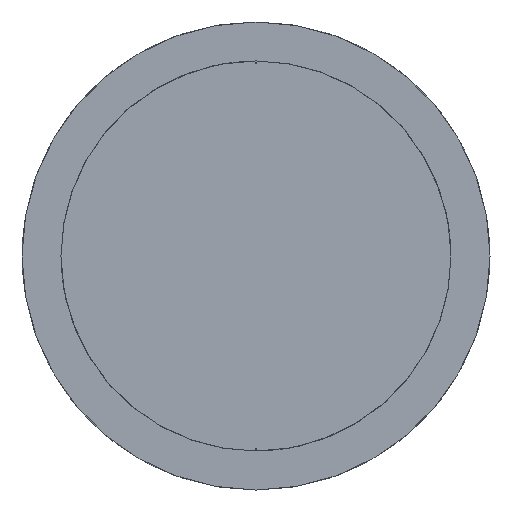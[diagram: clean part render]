
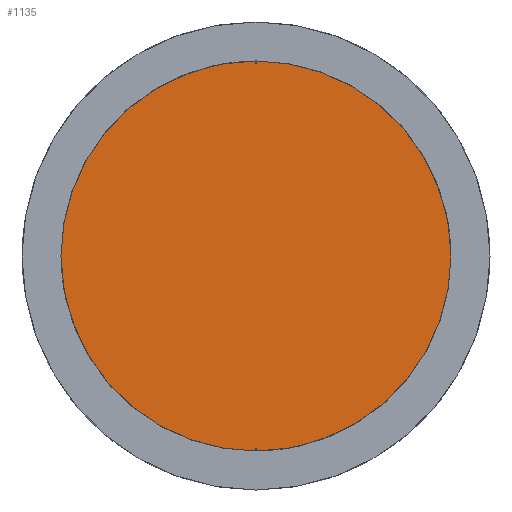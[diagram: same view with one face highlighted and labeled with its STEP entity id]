
A CAD part, left-side view. The second image highlights one B-rep face of the part: STEP entity #1135.
In plain terms, the highlighted planar face has unit normal (-1, 0, 0).
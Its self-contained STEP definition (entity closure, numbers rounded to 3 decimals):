
#1067=CARTESIAN_POINT('Vertex',(0.,0.,5.)) ;
#1074=CARTESIAN_POINT('Vertex',(0.,0.,-5.)) ;
#1077=CARTESIAN_POINT('Axis2P3D Location',(0.,0.,0.)) ;
#1081=CARTESIAN_POINT('Vertex',(0.,5.,0.)) ;
#1084=CARTESIAN_POINT('Axis2P3D Location',(0.,0.,0.)) ;
#1103=CARTESIAN_POINT('Axis2P3D Location',(0.,0.,0.)) ;
#1107=CARTESIAN_POINT('Vertex',(0.,-5.,0.)) ;
#1110=CARTESIAN_POINT('Axis2P3D Location',(0.,0.,0.)) ;
#1124=CARTESIAN_POINT('Axis2P3D Location',(0.,0.,0.)) ;
#1078=DIRECTION('Axis2P3D Direction',(-1.,0.,0.)) ;
#1085=DIRECTION('Axis2P3D Direction',(-1.,0.,0.)) ;
#1104=DIRECTION('Axis2P3D Direction',(-1.,0.,0.)) ;
#1111=DIRECTION('Axis2P3D Direction',(-1.,0.,0.)) ;
#1125=DIRECTION('Axis2P3D Direction',(1.,0.,-0.)) ;
#1126=DIRECTION('Axis2P3D XDirection',(-0.,0.,-1.)) ;
#1079=AXIS2_PLACEMENT_3D('Circle Axis2P3D',#1077,#1078,$) ;
#1086=AXIS2_PLACEMENT_3D('Circle Axis2P3D',#1084,#1085,$) ;
#1105=AXIS2_PLACEMENT_3D('Circle Axis2P3D',#1103,#1104,$) ;
#1112=AXIS2_PLACEMENT_3D('Circle Axis2P3D',#1110,#1111,$) ;
#1127=AXIS2_PLACEMENT_3D('Plane Axis2P3D',#1124,#1125,#1126) ;
#1130=ORIENTED_EDGE('',*,*,#1083,.F.) ;
#1131=ORIENTED_EDGE('',*,*,#1114,.F.) ;
#1132=ORIENTED_EDGE('',*,*,#1109,.F.) ;
#1133=ORIENTED_EDGE('',*,*,#1088,.F.) ;
#1135=ADVANCED_FACE('CF-VPA12',(#1134),#1128,.F.) ;
#1080=CIRCLE('generated circle',#1079,5.) ;
#1087=CIRCLE('generated circle',#1086,5.) ;
#1106=CIRCLE('generated circle',#1105,5.) ;
#1113=CIRCLE('generated circle',#1112,5.) ;
#1083=EDGE_CURVE('',#1075,#1082,#1080,.F.) ;
#1088=EDGE_CURVE('',#1082,#1068,#1087,.F.) ;
#1109=EDGE_CURVE('',#1068,#1108,#1106,.F.) ;
#1114=EDGE_CURVE('',#1108,#1075,#1113,.F.) ;
#1129=EDGE_LOOP('',(#1130,#1131,#1132,#1133)) ;
#1134=FACE_OUTER_BOUND('',#1129,.T.) ;
#1128=PLANE('Plane',#1127) ;
#1068=VERTEX_POINT('',#1067) ;
#1075=VERTEX_POINT('',#1074) ;
#1082=VERTEX_POINT('',#1081) ;
#1108=VERTEX_POINT('',#1107) ;
